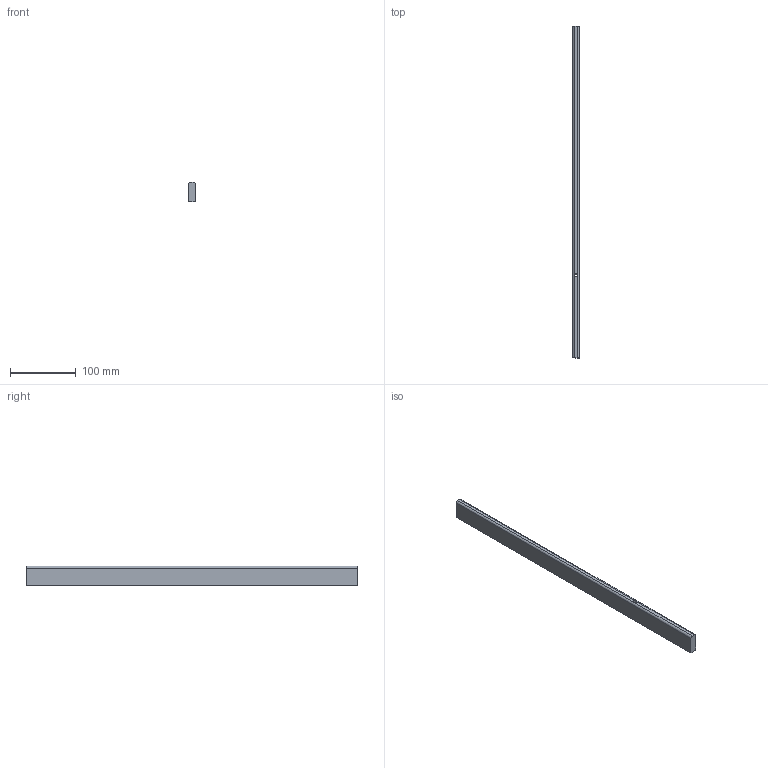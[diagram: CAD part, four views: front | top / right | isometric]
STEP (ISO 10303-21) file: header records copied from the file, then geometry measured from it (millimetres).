
FILE_DESCRIPTION (( 'STEP AP214' ), '1' );
FILE_NAME ('_Seitenreling_SP60702400_RL505.step', '2010-09-06T14:52:11', ( 'grass' ), ( '' ), 'SwSTEP 2.0', 'SolidWorks 2010', '' );
FILE_SCHEMA (( 'AUTOMOTIVE_DESIGN' ));
Length unit declared in the file: millimetre
Products named in the file (1): _Seitenreling_SP60702400_RL505
Bounding box: 10.5 x 505 x 30 mm (x, y, z)
Volume: 156205.2 mm3; surface area: 40765.2 mm2
Topology: 1 solids, 1 shells, 14 faces, 34 edges, 22 vertices
Faces by surface type: plane 8, cylinder 6
Entity records: 454 total; most frequent: DIRECTION 78, CARTESIAN_POINT 71, ORIENTED_EDGE 68, EDGE_CURVE 34, AXIS2_PLACEMENT_3D 29, VERTEX_POINT 22, LINE 20, VECTOR 20
